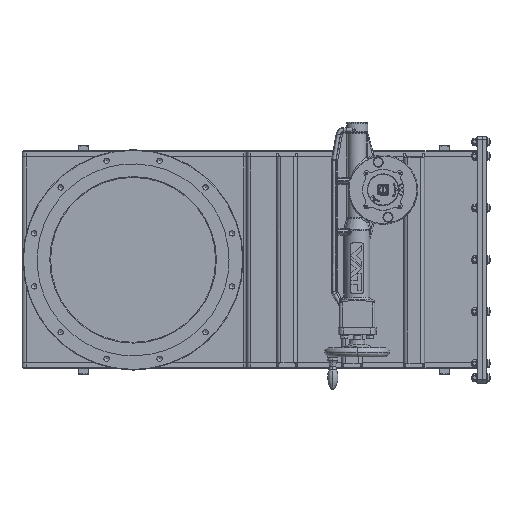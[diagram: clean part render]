
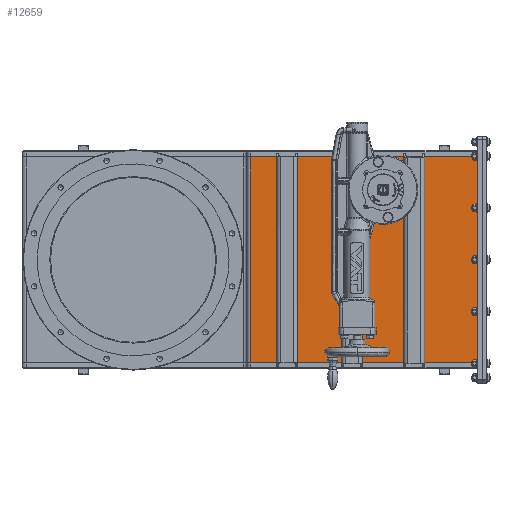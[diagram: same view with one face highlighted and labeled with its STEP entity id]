
A CAD part, top view. The second image highlights one B-rep face of the part: STEP entity #12659.
In plain terms, the highlighted planar face has unit normal (0, 0, 1) as drawn and (0, 1, 0) by its records, which use the part's own axes.
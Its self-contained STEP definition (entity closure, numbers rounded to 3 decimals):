
#9989=LINE('',#35508,#11040);
#9990=LINE('',#35511,#11041);
#9991=LINE('',#35513,#11042);
#9992=LINE('',#35515,#11043);
#11040=VECTOR('',#30299,1.);
#11041=VECTOR('',#30300,1.);
#11042=VECTOR('',#30301,1.);
#11043=VECTOR('',#30302,1.);
#12659=ADVANCED_FACE('',(#14968,#14969),#13774,.F.);
#13774=PLANE('',#27872);
#14968=FACE_BOUND('',#15783,.T.);
#14969=FACE_BOUND('',#15784,.T.);
#15783=EDGE_LOOP('',(#17724));
#15784=EDGE_LOOP('',(#17725,#17726,#17727,#17728));
#17724=ORIENTED_EDGE('',*,*,#24366,.T.);
#17725=ORIENTED_EDGE('',*,*,#24367,.T.);
#17726=ORIENTED_EDGE('',*,*,#24368,.F.);
#17727=ORIENTED_EDGE('',*,*,#24369,.F.);
#17728=ORIENTED_EDGE('',*,*,#24370,.T.);
#22562=VERTEX_POINT('',#35507);
#22563=VERTEX_POINT('',#35509);
#22564=VERTEX_POINT('',#35510);
#22565=VERTEX_POINT('',#35512);
#22566=VERTEX_POINT('',#35514);
#24366=EDGE_CURVE('',#22562,#22562,#26785,.T.);
#24367=EDGE_CURVE('',#22563,#22564,#9989,.T.);
#24368=EDGE_CURVE('',#22565,#22564,#9990,.T.);
#24369=EDGE_CURVE('',#22566,#22565,#9991,.T.);
#24370=EDGE_CURVE('',#22566,#22563,#9992,.T.);
#26785=CIRCLE('',#27871,27.8);
#27871=AXIS2_PLACEMENT_3D('',#35506,#30297,#30298);
#27872=AXIS2_PLACEMENT_3D('',#35516,#30303,#30304);
#30297=DIRECTION('',(0.,-1.,0.));
#30298=DIRECTION('',(1.,0.,0.));
#30299=DIRECTION('',(-1.,0.,0.));
#30300=DIRECTION('',(0.,0.,-1.));
#30301=DIRECTION('',(-1.,0.,0.));
#30302=DIRECTION('',(0.,0.,-1.));
#30303=DIRECTION('',(0.,-1.,0.));
#30304=DIRECTION('',(1.,0.,0.));
#35506=CARTESIAN_POINT('',(-181.3,0.,-135.));
#35507=CARTESIAN_POINT('',(-153.5,0.,-135.));
#35508=CARTESIAN_POINT('',(0.,0.,-198.45));
#35509=CARTESIAN_POINT('',(0.,0.,-198.45));
#35510=CARTESIAN_POINT('',(-436.5,0.,-198.45));
#35511=CARTESIAN_POINT('',(-436.5,0.,198.45));
#35512=CARTESIAN_POINT('',(-436.5,0.,198.45));
#35513=CARTESIAN_POINT('',(0.,0.,198.45));
#35514=CARTESIAN_POINT('',(0.,0.,198.45));
#35515=CARTESIAN_POINT('',(0.,0.,198.45));
#35516=CARTESIAN_POINT('',(0.,0.,198.45));
